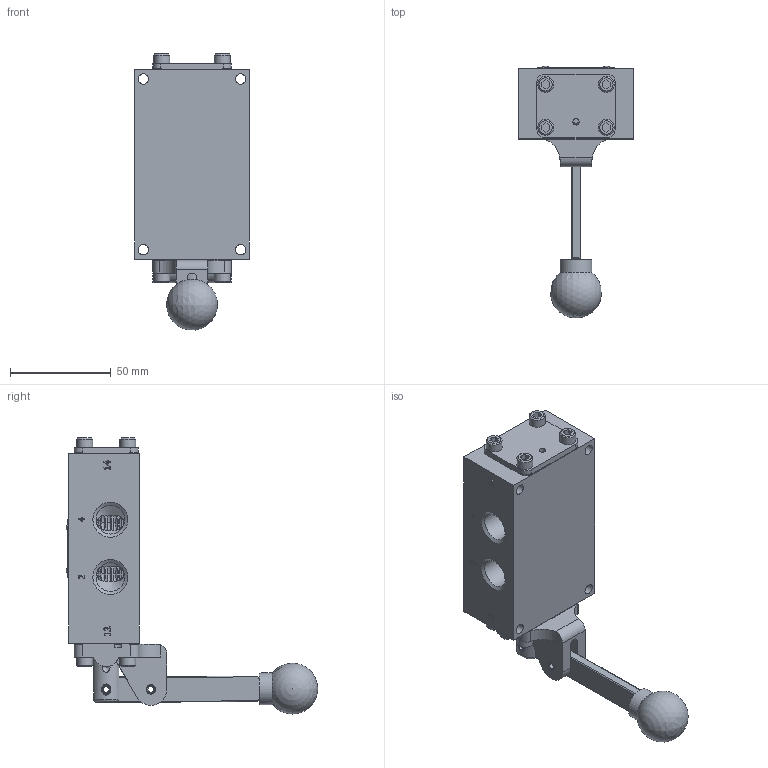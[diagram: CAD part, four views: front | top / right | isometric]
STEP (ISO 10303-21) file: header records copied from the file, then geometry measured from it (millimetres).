
FILE_DESCRIPTION(/* description */ (''),/* implementation_level */ '2;1');
FILE_NAME(/* name */ 'D:\Engineering\Product\valves\Assembly\lever\HD\stp\HD3HT.stp',/* time_stamp */ '2022-12-21T19:51:13-05:00',/* author */ ('RMcKenna'),/* organization */ (''),/* preprocessor_version */ 'ST-DEVELOPER v18.1',/* originating_system */ 'Autodesk Inventor 2021',/* authorisation */ '');
FILE_SCHEMA (('AUTOMOTIVE_DESIGN { 1 0 10303 214 3 1 1 }'));
Length unit declared in the file: centimetre
Products named in the file (1): Part7
Bounding box: 57.15 x 125.2 x 137.31 mm (x, y, z)
Volume: 190829.8 mm3; surface area: 61483.7 mm2
Topology: 1 solids, 30 shells, 1176 faces, 2909 edges, 1867 vertices
Faces by surface type: plane 520, cone 245, cylinder 212, bspline 106, torus 89, sphere 4
Full cylindrical faces by diameter (mm): 2.07 x2, 2.261 x2, 2.778 x2, 3.175 x3, 3.683 x10, 3.912 x3, 4.75 x2, 4.763 x2, 4.826 x8, 4.978 x4, 5.055 x1, 5.156 x12, 5.41 x2, 7.798 x1, 7.938 x8, 8.153 x1, 9.922 x1, 11.113 x1, 11.303 x2, 14.275 x1, 14.287 x5, 14.986 x1, 15.748 x1, 18.618 x2, 18.745 x12, 19.177 x2, 23.825 x7
Entity records: 39702 total; most frequent: CARTESIAN_POINT 11241, ORIENTED_EDGE 5770, DIRECTION 5337, EDGE_CURVE 2885, AXIS2_PLACEMENT_3D 1923, VERTEX_POINT 1867, LINE 1491, VECTOR 1491
